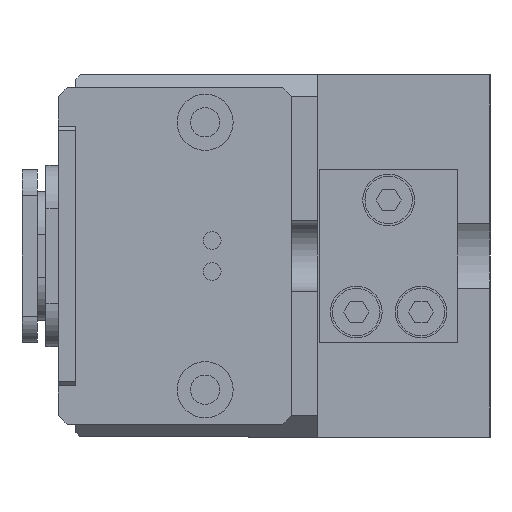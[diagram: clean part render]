
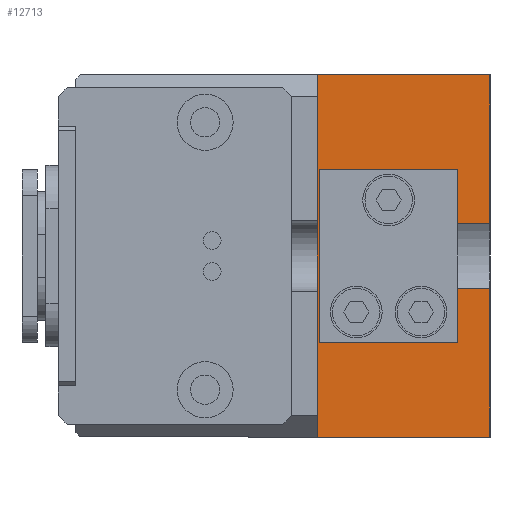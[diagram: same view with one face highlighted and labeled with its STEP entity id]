
A CAD part, left-side view. The second image highlights one B-rep face of the part: STEP entity #12713.
In plain terms, the highlighted planar face has unit normal (-1, 0, 0).
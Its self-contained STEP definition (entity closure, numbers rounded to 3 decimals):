
#373 = ORIENTED_EDGE ( 'NONE', *, *, #9024, .F. ) ;
#658 = FACE_BOUND ( 'NONE', #675, .T. ) ;
#675 = EDGE_LOOP ( 'NONE', ( #11939, #10838 ) ) ;
#801 = ORIENTED_EDGE ( 'NONE', *, *, #18944, .T. ) ;
#1238 = LINE ( 'NONE', #15342, #20705 ) ;
#1304 = CARTESIAN_POINT ( 'NONE',  ( -31.5, 8., -5.271 ) ) ;
#1354 = VERTEX_POINT ( 'NONE', #5431 ) ;
#1378 = EDGE_LOOP ( 'NONE', ( #18545, #20391, #10353, #32370, #373, #19289, #8842, #12754 ) ) ;
#1508 = CARTESIAN_POINT ( 'NONE',  ( -31.5, 3.75, -3.75 ) ) ;
#2211 = DIRECTION ( 'NONE',  ( 0., -1., 0. ) ) ;
#2614 = DIRECTION ( 'NONE',  ( 1., 0., 0. ) ) ;
#2663 = LINE ( 'NONE', #22257, #16955 ) ;
#2834 = AXIS2_PLACEMENT_3D ( 'NONE', #12371, #29999, #14938 ) ;
#2944 = DIRECTION ( 'NONE',  ( 0., 0., 1. ) ) ;
#3021 = CARTESIAN_POINT ( 'NONE',  ( -31.5, 0., 21. ) ) ;
#4106 = VERTEX_POINT ( 'NONE', #9096 ) ;
#4610 = VECTOR ( 'NONE', #30839, 1000. ) ;
#5138 = VERTEX_POINT ( 'NONE', #30618 ) ;
#5431 = CARTESIAN_POINT ( 'NONE',  ( -31.5, 20., -21. ) ) ;
#5786 = DIRECTION ( 'NONE',  ( 0., -1., 0. ) ) ;
#6513 = CARTESIAN_POINT ( 'NONE',  ( -31.5, 48., 21. ) ) ;
#7303 = VECTOR ( 'NONE', #2944, 1000. ) ;
#7349 = FACE_BOUND ( 'NONE', #24160, .T. ) ;
#7724 = EDGE_CURVE ( 'NONE', #20332, #5138, #2663, .T. ) ;
#8055 = LINE ( 'NONE', #19790, #27397 ) ;
#8097 = CARTESIAN_POINT ( 'NONE',  ( -31.5, 8., -6.5 ) ) ;
#8180 = LINE ( 'NONE', #3021, #7303 ) ;
#8274 = CARTESIAN_POINT ( 'NONE',  ( -31.5, 0., -21. ) ) ;
#8304 = CARTESIAN_POINT ( 'NONE',  ( -31.5, 0., -3.75 ) ) ;
#8310 = LINE ( 'NONE', #18442, #21061 ) ;
#8540 = EDGE_CURVE ( 'NONE', #28808, #31048, #8180, .T. ) ;
#8723 = EDGE_CURVE ( 'NONE', #5138, #4106, #11715, .T. ) ;
#8779 = CARTESIAN_POINT ( 'NONE',  ( -31.5, 8., -7.73 ) ) ;
#8842 = ORIENTED_EDGE ( 'NONE', *, *, #8540, .T. ) ;
#9024 = EDGE_CURVE ( 'NONE', #1354, #4106, #8055, .T. ) ;
#9096 = CARTESIAN_POINT ( 'NONE',  ( -31.5, 20., 21. ) ) ;
#9432 = CARTESIAN_POINT ( 'NONE',  ( -31.5, 0., 3.75 ) ) ;
#9871 = DIRECTION ( 'NONE',  ( 1., 0., 0. ) ) ;
#9923 = AXIS2_PLACEMENT_3D ( 'NONE', #8097, #25740, #10644 ) ;
#10157 = CIRCLE ( 'NONE', #19071, 1.229 ) ;
#10353 = ORIENTED_EDGE ( 'NONE', *, *, #7724, .T. ) ;
#10644 = DIRECTION ( 'NONE',  ( 0., 0., 1. ) ) ;
#10838 = ORIENTED_EDGE ( 'NONE', *, *, #18754, .T. ) ;
#10971 = CARTESIAN_POINT ( 'NONE',  ( -31.5, 3.75, 21. ) ) ;
#11012 = DIRECTION ( 'NONE',  ( 1., 0., 0. ) ) ;
#11173 = AXIS2_PLACEMENT_3D ( 'NONE', #25001, #9871, #27547 ) ;
#11459 = LINE ( 'NONE', #29861, #19029 ) ;
#11555 = VERTEX_POINT ( 'NONE', #8779 ) ;
#11715 = LINE ( 'NONE', #6513, #4610 ) ;
#11939 = ORIENTED_EDGE ( 'NONE', *, *, #19942, .T. ) ;
#12371 = CARTESIAN_POINT ( 'NONE',  ( -31.5, 0., 21. ) ) ;
#12512 = CARTESIAN_POINT ( 'NONE',  ( -31.5, 15.5, -7.73 ) ) ;
#12713 = ADVANCED_FACE ( 'NONE', ( #30631, #7349, #658 ), #29886, .T. ) ;
#12754 = ORIENTED_EDGE ( 'NONE', *, *, #19983, .T. ) ;
#13687 = LINE ( 'NONE', #10971, #20513 ) ;
#14938 = DIRECTION ( 'NONE',  ( 0., 0., 1. ) ) ;
#15226 = DIRECTION ( 'NONE',  ( 0., 1., 0. ) ) ;
#15334 = VERTEX_POINT ( 'NONE', #17693 ) ;
#15342 = CARTESIAN_POINT ( 'NONE',  ( -31.5, 0., -3.75 ) ) ;
#15549 = VERTEX_POINT ( 'NONE', #1508 ) ;
#15771 = EDGE_CURVE ( 'NONE', #23075, #11555, #31172, .T. ) ;
#16955 = VECTOR ( 'NONE', #21611, 1000. ) ;
#17693 = CARTESIAN_POINT ( 'NONE',  ( -31.5, 3.75, 3.75 ) ) ;
#17826 = CARTESIAN_POINT ( 'NONE',  ( -31.5, 15.5, -6.5 ) ) ;
#18442 = CARTESIAN_POINT ( 'NONE',  ( -31.5, 0., 3.75 ) ) ;
#18545 = ORIENTED_EDGE ( 'NONE', *, *, #19538, .T. ) ;
#18754 = EDGE_CURVE ( 'NONE', #23366, #28644, #27174, .T. ) ;
#18944 = EDGE_CURVE ( 'NONE', #11555, #23075, #10157, .T. ) ;
#19029 = VECTOR ( 'NONE', #2211, 1000. ) ;
#19071 = AXIS2_PLACEMENT_3D ( 'NONE', #26086, #11012, #28582 ) ;
#19289 = ORIENTED_EDGE ( 'NONE', *, *, #28649, .T. ) ;
#19538 = EDGE_CURVE ( 'NONE', #15549, #15334, #13687, .T. ) ;
#19790 = CARTESIAN_POINT ( 'NONE',  ( -31.5, 20., 21. ) ) ;
#19942 = EDGE_CURVE ( 'NONE', #28644, #23366, #21442, .T. ) ;
#19983 = EDGE_CURVE ( 'NONE', #31048, #15549, #1238, .T. ) ;
#20332 = VERTEX_POINT ( 'NONE', #9432 ) ;
#20391 = ORIENTED_EDGE ( 'NONE', *, *, #23558, .T. ) ;
#20400 = DIRECTION ( 'NONE',  ( 0., 0., 1. ) ) ;
#20513 = VECTOR ( 'NONE', #26053, 1000. ) ;
#20705 = VECTOR ( 'NONE', #15226, 1000. ) ;
#21061 = VECTOR ( 'NONE', #5786, 1000. ) ;
#21442 = CIRCLE ( 'NONE', #30400, 1.229 ) ;
#21611 = DIRECTION ( 'NONE',  ( 0., 0., 1. ) ) ;
#22257 = CARTESIAN_POINT ( 'NONE',  ( -31.5, 0., 21. ) ) ;
#23075 = VERTEX_POINT ( 'NONE', #1304 ) ;
#23366 = VERTEX_POINT ( 'NONE', #12512 ) ;
#23558 = EDGE_CURVE ( 'NONE', #15334, #20332, #8310, .T. ) ;
#24160 = EDGE_LOOP ( 'NONE', ( #25337, #801 ) ) ;
#25001 = CARTESIAN_POINT ( 'NONE',  ( -31.5, 15.5, -6.5 ) ) ;
#25337 = ORIENTED_EDGE ( 'NONE', *, *, #15771, .T. ) ;
#25740 = DIRECTION ( 'NONE',  ( 1., 0., 0. ) ) ;
#26053 = DIRECTION ( 'NONE',  ( 0., 0., 1. ) ) ;
#26086 = CARTESIAN_POINT ( 'NONE',  ( -31.5, 8., -6.5 ) ) ;
#27174 = CIRCLE ( 'NONE', #11173, 1.229 ) ;
#27397 = VECTOR ( 'NONE', #29532, 1000. ) ;
#27547 = DIRECTION ( 'NONE',  ( 0., 0., 1. ) ) ;
#28582 = DIRECTION ( 'NONE',  ( 0., 0., 1. ) ) ;
#28644 = VERTEX_POINT ( 'NONE', #32382 ) ;
#28649 = EDGE_CURVE ( 'NONE', #1354, #28808, #11459, .T. ) ;
#28808 = VERTEX_POINT ( 'NONE', #8274 ) ;
#29532 = DIRECTION ( 'NONE',  ( 0., 0., 1. ) ) ;
#29861 = CARTESIAN_POINT ( 'NONE',  ( -31.5, 0., -21. ) ) ;
#29886 = PLANE ( 'NONE',  #2834 ) ;
#29999 = DIRECTION ( 'NONE',  ( -1., 0., 0. ) ) ;
#30400 = AXIS2_PLACEMENT_3D ( 'NONE', #17826, #2614, #20400 ) ;
#30618 = CARTESIAN_POINT ( 'NONE',  ( -31.5, 0., 21. ) ) ;
#30631 = FACE_OUTER_BOUND ( 'NONE', #1378, .T. ) ;
#30839 = DIRECTION ( 'NONE',  ( 0., 1., 0. ) ) ;
#31048 = VERTEX_POINT ( 'NONE', #8304 ) ;
#31172 = CIRCLE ( 'NONE', #9923, 1.229 ) ;
#32370 = ORIENTED_EDGE ( 'NONE', *, *, #8723, .T. ) ;
#32382 = CARTESIAN_POINT ( 'NONE',  ( -31.5, 15.5, -5.271 ) ) ;
